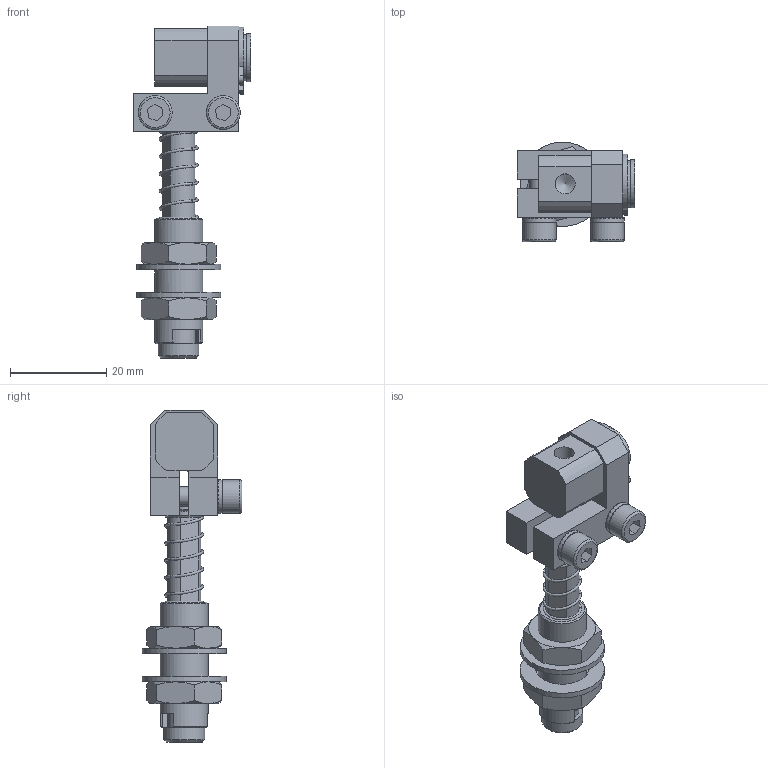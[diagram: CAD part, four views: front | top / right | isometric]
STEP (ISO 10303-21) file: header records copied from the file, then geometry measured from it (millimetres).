
FILE_DESCRIPTION(('STEP AP214'),'1');
FILE_NAME('CA.GGSM100515.6N.stp','2019-02-18T13:19:13',(' '),(' '),'Spatial InterOp 3D',' ',' ');
FILE_SCHEMA(('AUTOMOTIVE_DESIGN { 1 0 10303 214 1 1 1 1 }'));
Length unit declared in the file: millimetre
Products named in the file (11): CA.GGSM100515.6N; A.ELA10; V.TCE4x14; R.4.SCH; M.8x26.6N; R.10.SCH; 05.01.005.07; 05.01.005.02; 05.01.005.06; GGS.01.01; GGS.02.01
Assembly tree (14 placements, depth 2):
  CA.GGSM100515.6N
    A.ELA10
    V.TCE4x14  x2
    R.4.SCH  x2
    M.8x26.6N
    R.10.SCH  x2
    05.01.005.07
    05.01.005.02
    05.01.005.06  x2
    GGS.01.01
    GGS.02.01
Bounding box: 24.5 x 20.75 x 69 mm (x, y, z)
Volume: 8582.2 mm3; surface area: 9890.6 mm2
Topology: 16 solids, 18 shells, 591 faces, 1627 edges, 1071 vertices
Faces by surface type: plane 483, cylinder 52, cone 40, torus 16
Full cylindrical faces by diameter (mm): 1.5 x2, 2.5 x1, 3.3 x2, 4 x2, 4.2 x9, 4.3 x2, 5 x1, 7 x4, 7.1 x1, 8.5 x1, 9 x2, 9.6 x1, 10 x3, 11 x2, 17.5 x2
Entity records: 14134 total; most frequent: CARTESIAN_POINT 2193, DIRECTION 1910, ORIENTED_EDGE 1762, EDGE_CURVE 881, AXIS2_PLACEMENT_3D 694, VERTEX_POINT 609, LINE 522, VECTOR 522
